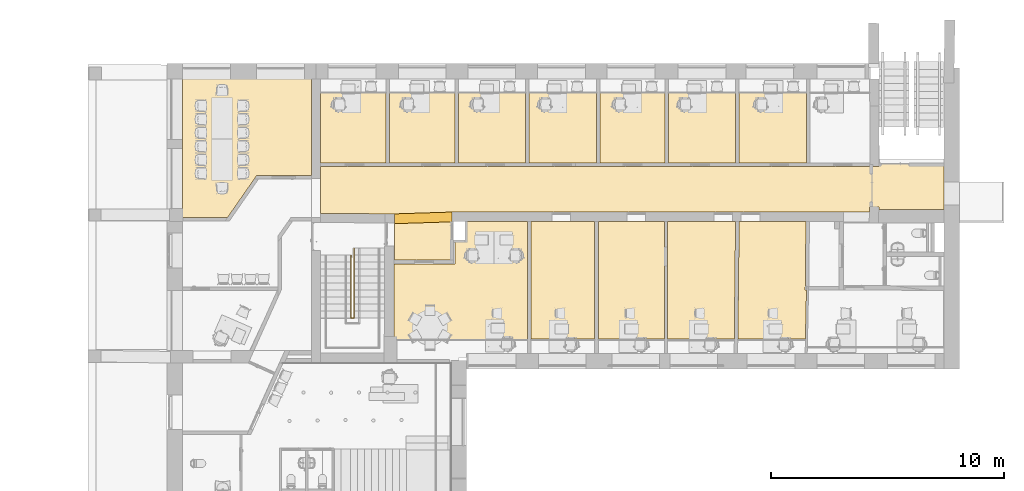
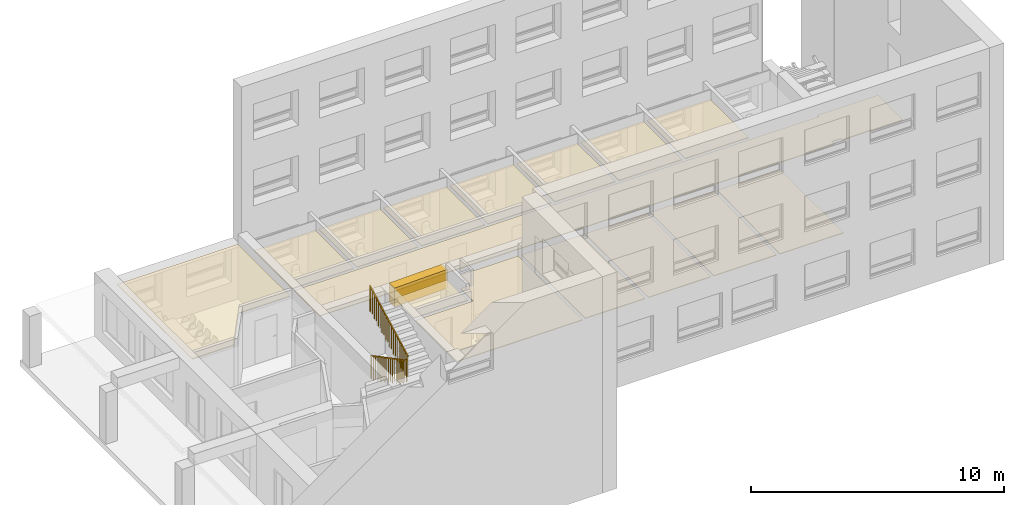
# One storey, part 20 of 25: 16 coverings, 1 railing, 1 element without a shape of its own.
"""IFC2X3 building model written with IfcOpenShell, lengths in millimetres."""

from ifc_helpers import new_model, entity, si_unit, converted_unit, derived_unit, direction, frame, frame_2d, origin, origin_2d_with_axis, place, context, subcontext, project, spatial, polyline, rectangle, outline, extrude, material, layer, layer_set, layer_usage, element, aggregate, save


model = new_model("IFC2X3")

# Units and contexts
model_context = context("Model", 3, precision=0.01, world=origin(), true_north=direction((6.12303176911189e-17, 1.0)))
context_of_model = context(None, 3, precision=0.01, world=origin(), true_north=direction((6.12303176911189e-17, 1.0)))
body_context = subcontext(model_context, "Body", "Model", "MODEL_VIEW")
ifc_project = project(units=[si_unit("LENGTHUNIT", "METRE", prefix="MILLI"), si_unit("AREAUNIT", "SQUARE_METRE"), si_unit("VOLUMEUNIT", "CUBIC_METRE"), converted_unit("PLANEANGLEUNIT", "DEGREE", entity("IfcRatioMeasure", 0.0174532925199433), si_unit("PLANEANGLEUNIT", "RADIAN"), dimensions=[0, 0, 0, 0, 0, 0, 0]), si_unit("MASSUNIT", "GRAM", prefix="KILO"), derived_unit("MASSDENSITYUNIT", [(si_unit("MASSUNIT", "GRAM", prefix="KILO"), 1), (si_unit("LENGTHUNIT", "METRE"), -3)]), si_unit("TIMEUNIT", "SECOND"), si_unit("FREQUENCYUNIT", "HERTZ"), si_unit("THERMODYNAMICTEMPERATUREUNIT", "DEGREE_CELSIUS"), derived_unit("THERMALTRANSMITTANCEUNIT", [(si_unit("MASSUNIT", "GRAM", prefix="KILO"), 1), (si_unit("THERMODYNAMICTEMPERATUREUNIT", "KELVIN"), -1), (si_unit("TIMEUNIT", "SECOND"), -3)]), derived_unit("VOLUMETRICFLOWRATEUNIT", [(si_unit("LENGTHUNIT", "METRE"), 3), (si_unit("TIMEUNIT", "SECOND"), -1)]), si_unit("ELECTRICCURRENTUNIT", "AMPERE"), si_unit("ELECTRICVOLTAGEUNIT", "VOLT"), si_unit("POWERUNIT", "WATT"), si_unit("FORCEUNIT", "NEWTON", prefix="KILO"), si_unit("ILLUMINANCEUNIT", "LUX"), si_unit("LUMINOUSFLUXUNIT", "LUMEN"), si_unit("LUMINOUSINTENSITYUNIT", "CANDELA"), derived_unit("USERDEFINED", [(si_unit("MASSUNIT", "GRAM", prefix="KILO"), -1), (si_unit("LENGTHUNIT", "METRE"), -2), (si_unit("TIMEUNIT", "SECOND"), 3), (si_unit("LUMINOUSFLUXUNIT", "LUMEN"), 1)]), derived_unit("LINEARVELOCITYUNIT", [(si_unit("LENGTHUNIT", "METRE"), 1), (si_unit("TIMEUNIT", "SECOND"), -1)]), si_unit("PRESSUREUNIT", "PASCAL"), derived_unit("USERDEFINED", [(si_unit("LENGTHUNIT", "METRE"), -2), (si_unit("MASSUNIT", "GRAM", prefix="KILO"), 1), (si_unit("TIMEUNIT", "SECOND"), -2)])], contexts=[model_context, context_of_model])

# Site, building, storey
site_placement = place(None, frame((121442.264707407, 135347.995453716, -1800.0)))
site = spatial("IfcSite", under=ifc_project, at=site_placement, Name="Surface", CompositionType="ELEMENT")
building_placement = place(site_placement, origin())
building = spatial("IfcBuilding", under=site, at=building_placement, CompositionType="ELEMENT")
storey_placement = place(building_placement, frame((0.0, 0.0, 1800.0)))
storey = spatial("IfcBuildingStorey", under=building, at=storey_placement, Name="1 korrus", CompositionType="ELEMENT", Elevation=1800.00000000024)

# Coverings
covering_1_placement = place(storey_placement, origin())
element("IfcCovering", 1, at=covering_1_placement, inside=storey, Name="Ceilings 5:Ceilings 5", ObjectType="Ceilings 5:Ceilings 5", PredefinedType="CEILING", context=body_context, shape_type="SweptSolid", body=[
    extrude(outline(polyline([(-166.358255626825, -1233.09676720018), (254.483267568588, -1233.09676720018), (166.331142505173, 1233.85553254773), (-254.456154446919, 1232.33800185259), (-166.358255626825, -1233.09676720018)])), frame((-104892.713031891, -121304.094460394, 2117.59878326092), z_axis=(0.0, 0.0, 1.0), x_axis=(0.00360638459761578, 0.999993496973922, 0.0)), (0.0, 0.0, 1.0), 907.401216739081),
])
ifc_material = material(Name="EST. Ripplagi. Moodullagi. 600 x 600 mm")
ifc_layer = layer(ifc_material, 35.0)
ifc_layer_set = layer_set([ifc_layer], Name="Compound Ceiling:600x600 Focus")
ifc_layer_usage_1 = layer_usage(ifc_layer_set, "AXIS3", "POSITIVE", 0.0)
covering_2_placement = place(storey_placement, origin())
element("IfcCovering", 2, at=covering_2_placement, inside=storey, material=ifc_layer_usage_1, Name="Compound Ceiling:600x600 Focus", ObjectType="Compound Ceiling:600x600 Focus", PredefinedType="CEILING", context=body_context, shape_type="SweptSolid", body=[
    extrude(outline(polyline([(-2829.28205076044, -3358.56630146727), (2693.47741892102, -3358.56630146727), (2693.4774189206, 2584.28315073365), (764.041402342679, 2584.28315073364), (-492.432138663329, 774.283150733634), (-2829.28205076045, 774.283150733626), (-2829.28205076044, -3358.56630146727)])), frame((-112522.299191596, -118700.485413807, 2600.0), z_axis=(0.0, 0.0, 1.0), x_axis=(-1.0, 0.0, 0.0)), (0.0, 0.0, 1.0), 35.0000000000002),
])
ifc_layer_usage_2 = layer_usage(ifc_layer_set, "AXIS3", "POSITIVE", 0.0)
covering_3_placement = place(storey_placement, origin())
element("IfcCovering", 3, at=covering_3_placement, inside=storey, material=ifc_layer_usage_2, Name="Compound Ceiling:600x600 Focus", ObjectType="Compound Ceiling:600x600 Focus", PredefinedType="CEILING", context=body_context, shape_type="SweptSolid", body=[
    extrude(rectangle(XDim=2814.01784110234, YDim=3037.31613195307, at=frame_2d((0.0, 8.64019966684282e-12), x_axis=(1.0, 0.0))), frame((-107886.008220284, -117426.110498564, 2500.0)), (0.0, 0.0, 1.0), 35.0000000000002),
])
ifc_layer_usage_3 = layer_usage(ifc_layer_set, "AXIS3", "POSITIVE", 0.0)
covering_4_placement = place(storey_placement, origin())
element("IfcCovering", 4, at=covering_4_placement, inside=storey, material=ifc_layer_usage_3, Name="Compound Ceiling:600x600 Focus", ObjectType="Compound Ceiling:600x600 Focus", PredefinedType="CEILING", context=body_context, shape_type="SweptSolid", body=[
    extrude(rectangle(XDim=3037.31613195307, YDim=2799.99999999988, at=origin_2d_with_axis()), frame((-104928.999299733, -117426.110498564, 2500.0), z_axis=(0.0, 0.0, 1.0), x_axis=(0.0, -1.0, 0.0)), (0.0, 0.0, 1.0), 35.0000000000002),
])
ifc_layer_usage_4 = layer_usage(ifc_layer_set, "AXIS3", "POSITIVE", 0.0)
covering_5_placement = place(storey_placement, origin())
element("IfcCovering", 5, at=covering_5_placement, inside=storey, material=ifc_layer_usage_4, Name="Compound Ceiling:600x600 Focus", ObjectType="Compound Ceiling:600x600 Focus", PredefinedType="CEILING", context=body_context, shape_type="SweptSolid", body=[
    extrude(rectangle(XDim=3037.31613195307, YDim=2890.0, at=frame_2d((8.64019966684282e-12, 0.0), x_axis=(1.0, 0.0))), frame((-101933.999299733, -117426.110498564, 2500.0), z_axis=(0.0, 0.0, 1.0), x_axis=(0.0, -1.0, 0.0)), (0.0, 0.0, 1.0), 35.0000000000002),
])
ifc_layer_usage_5 = layer_usage(ifc_layer_set, "AXIS3", "POSITIVE", 0.0)
covering_6_placement = place(storey_placement, origin())
element("IfcCovering", 6, at=covering_6_placement, inside=storey, material=ifc_layer_usage_5, Name="Compound Ceiling:600x600 Focus", ObjectType="Compound Ceiling:600x600 Focus", PredefinedType="CEILING", context=body_context, shape_type="SweptSolid", body=[
    extrude(rectangle(XDim=3037.31613195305, YDim=2900.0, at=frame_2d((8.64019966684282e-12, 0.0), x_axis=(1.0, 0.0))), frame((-98888.9992997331, -117426.110498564, 2500.0), z_axis=(0.0, 0.0, 1.0), x_axis=(0.0, -1.0, 0.0)), (0.0, 0.0, 1.0), 35.0000000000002),
])
ifc_layer_usage_6 = layer_usage(ifc_layer_set, "AXIS3", "POSITIVE", 0.0)
covering_7_placement = place(storey_placement, origin())
element("IfcCovering", 7, at=covering_7_placement, inside=storey, material=ifc_layer_usage_6, Name="Compound Ceiling:600x600 Focus", ObjectType="Compound Ceiling:600x600 Focus", PredefinedType="CEILING", context=body_context, shape_type="SweptSolid", body=[
    extrude(rectangle(XDim=3037.31613195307, YDim=2780.98215889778, at=frame_2d((-8.64019966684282e-12, -8.75388650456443e-12), x_axis=(1.0, 0.0))), frame((-95898.5082202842, -117426.110498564, 2500.0), z_axis=(0.0, 0.0, 1.0), x_axis=(0.0, -1.0, 0.0)), (0.0, 0.0, 1.0), 35.0000000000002),
])
ifc_layer_usage_7 = layer_usage(ifc_layer_set, "AXIS3", "POSITIVE", 0.0)
covering_8_placement = place(storey_placement, origin())
element("IfcCovering", 8, at=covering_8_placement, inside=storey, material=ifc_layer_usage_7, Name="Compound Ceiling:600x600 Focus", ObjectType="Compound Ceiling:600x600 Focus", PredefinedType="CEILING", context=body_context, shape_type="SweptSolid", body=[
    extrude(rectangle(XDim=3037.31613195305, YDim=2880.0, at=frame_2d((8.64019966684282e-12, 0.0), x_axis=(1.0, 0.0))), frame((-92918.0171408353, -117426.110498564, 2500.0), z_axis=(0.0, 0.0, 1.0), x_axis=(0.0, -1.0, 0.0)), (0.0, 0.0, 1.0), 35.0000000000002),
])
ifc_layer_usage_8 = layer_usage(ifc_layer_set, "AXIS3", "POSITIVE", 0.0)
covering_9_placement = place(storey_placement, origin())
element("IfcCovering", 9, at=covering_9_placement, inside=storey, material=ifc_layer_usage_8, Name="Compound Ceiling:600x600 Focus", ObjectType="Compound Ceiling:600x600 Focus", PredefinedType="CEILING", context=body_context, shape_type="SweptSolid", body=[
    extrude(rectangle(XDim=3037.31613195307, YDim=2899.01784110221, at=frame_2d((1.72803993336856e-11, -8.64019966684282e-12), x_axis=(1.0, 0.0))), frame((-89878.5082202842, -117426.110498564, 2500.0), z_axis=(0.0, 0.0, 1.0), x_axis=(0.0, -1.0, 0.0)), (0.0, 0.0, 1.0), 35.0000000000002),
])
ifc_layer_usage_9 = layer_usage(ifc_layer_set, "AXIS3", "POSITIVE", 0.0)
covering_10_placement = place(storey_placement, origin())
element("IfcCovering", 10, at=covering_10_placement, inside=storey, material=ifc_layer_usage_9, Name="Compound Ceiling:600x600 Focus", ObjectType="Compound Ceiling:600x600 Focus", PredefinedType="CEILING", context=body_context, shape_type="SweptSolid", body=[
    extrude(outline(polyline([(-1472.95404763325, -2525.21057328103), (1445.89128742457, -2525.21057328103), (1445.89128742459, 2525.21057328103), (-1418.82852721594, 2525.21057328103), (-1472.95404763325, -2525.21057328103)])), frame((-92946.7127775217, -123989.270442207, 2500.0), z_axis=(0.0, 0.0, 1.0), x_axis=(-1.0, 0.0, 0.0)), (0.0, 0.0, 1.0), 35.0000000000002),
])
ifc_layer_usage_10 = layer_usage(ifc_layer_set, "AXIS3", "POSITIVE", 0.0)
covering_11_placement = place(storey_placement, origin())
element("IfcCovering", 11, at=covering_11_placement, inside=storey, material=ifc_layer_usage_10, Name="Compound Ceiling:600x600 Focus", ObjectType="Compound Ceiling:600x600 Focus", PredefinedType="CEILING", context=body_context, shape_type="SweptSolid", body=[
    extrude(rectangle(XDim=2836.0569343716, YDim=5050.42114656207, at=origin_2d_with_axis()), frame((-95950.6325321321, -123989.270442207, 2500.0), z_axis=(0.0, 0.0, 1.0), x_axis=(-1.0, 0.0, 0.0)), (0.0, 0.0, 1.0), 35.0000000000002),
])
ifc_layer_usage_11 = layer_usage(ifc_layer_set, "AXIS3", "POSITIVE", 0.0)
covering_12_placement = place(storey_placement, origin())
element("IfcCovering", 12, at=covering_12_placement, inside=storey, material=ifc_layer_usage_11, Name="Compound Ceiling:600x600 Focus", ObjectType="Compound Ceiling:600x600 Focus", PredefinedType="CEILING", context=body_context, shape_type="SweptSolid", body=[
    extrude(rectangle(XDim=2736.56040324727, YDim=5050.42114656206, at=frame_2d((8.64019966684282e-12, 0.0), x_axis=(1.0, 0.0))), frame((-98896.9412009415, -123989.270442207, 2500.0), z_axis=(0.0, 0.0, 1.0), x_axis=(-1.0, 0.0, 0.0)), (0.0, 0.0, 1.0), 35.0000000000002),
])
ifc_layer_usage_12 = layer_usage(ifc_layer_set, "AXIS3", "POSITIVE", 0.0)
covering_13_placement = place(storey_placement, origin())
element("IfcCovering", 13, at=covering_13_placement, inside=storey, material=ifc_layer_usage_12, Name="Compound Ceiling:600x600 Focus", ObjectType="Compound Ceiling:600x600 Focus", PredefinedType="CEILING", context=body_context, shape_type="SweptSolid", body=[
    extrude(outline(polyline([(-972.95512312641, -2660.07508099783), (1897.62568732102, -2660.07508099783), (1956.03091684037, 2390.34606556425), (-947.847866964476, 2390.34606556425), (-993.779998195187, 269.729015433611), (-939.07361587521, 269.729015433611), (-972.95512312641, -2660.07508099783)])), frame((-89421.3180626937, -124124.134949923, 2500.0), z_axis=(0.0, 0.0, 1.0), x_axis=(-1.0, 0.0, 0.0)), (0.0, 0.0, 1.0), 35.0000000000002),
])
ifc_layer_usage_13 = layer_usage(ifc_layer_set, "AXIS3", "POSITIVE", 0.0)
covering_14_placement = place(storey_placement, origin())
element("IfcCovering", 14, at=covering_14_placement, inside=storey, material=ifc_layer_usage_13, Name="Compound Ceiling:600x600 Focus", ObjectType="Compound Ceiling:600x600 Focus", PredefinedType="CEILING", context=body_context, shape_type="SweptSolid", body=[
    extrude(outline(polyline([(-113.376945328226, -2861.05881104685), (3167.44230853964, -2861.05881104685), (3167.44230853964, 2874.61918864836), (-1925.97883802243, 2874.61918864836), (-1925.97883802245, 211.820433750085), (-1128.08652518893, 211.820433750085), (-1128.08652518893, -225.38081135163), (-113.376945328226, -225.38081135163), (-113.376945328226, -2861.05881104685)])), frame((-103289.840591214, -123390.038706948, 2500.0), z_axis=(0.0, 0.0, 1.0), x_axis=(0.0, -1.0, 0.0)), (0.0, 0.0, 1.0), 35.0000000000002),
])
ifc_layer_usage_14 = layer_usage(ifc_layer_set, "AXIS3", "POSITIVE", 0.0)
covering_15_placement = place(storey_placement, origin())
element("IfcCovering", 15, at=covering_15_placement, inside=storey, material=ifc_layer_usage_14, Name="Compound Ceiling:600x600 Focus", ObjectType="Compound Ceiling:600x600 Focus", PredefinedType="CEILING", context=body_context, shape_type="SweptSolid", body=[
    extrude(outline(polyline([(-1259.06316605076, -795.669641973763), (1207.94511124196, -795.669641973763), (1257.79166776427, 756.087048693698), (-1206.67361295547, 835.252235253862), (-1259.06316605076, -795.669641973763)])), frame((-104893.092460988, -122310.581713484, 2500.0), z_axis=(0.0, 0.0, 1.0), x_axis=(-0.99948446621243, -0.0321061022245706, 0.0)), (0.0, 0.0, 1.0), 35.0000000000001),
])
ifc_layer_usage_15 = layer_usage(ifc_layer_set, "AXIS3", "POSITIVE", 0.0)
covering_16_placement = place(storey_placement, origin())
element("IfcCovering", 16, at=covering_16_placement, inside=storey, material=ifc_layer_usage_15, Name="Compound Ceiling:600x600 Focus", ObjectType="Compound Ceiling:600x600 Focus", PredefinedType="CEILING", context=body_context, shape_type="SweptSolid", body=[
    extrude(outline(polyline([(-6866.34124484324, -1241.76793354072), (17116.4009916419, -1241.76793354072), (17116.4009916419, 779.163063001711), (13949.3445373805, 796.778143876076), (11482.090369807, 717.523370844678), (-6459.08784559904, 717.523370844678), (-6459.08784559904, 497.285069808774), (-6856.0535856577, 497.285069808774), (-6856.0535856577, 597.563434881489), (-9650.63576913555, 597.563434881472), (-9650.63576913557, -1358.57454543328), (-6866.34124484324, -1358.57454543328), (-6866.34124484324, -1241.76793354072)])), frame((-92176.6161491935, -120336.536498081, 2500.0), z_axis=(0.0, 0.0, 1.0), x_axis=(-1.0, 0.0, 0.0)), (0.0, 0.0, 1.0), 35.0000000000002),
])

# Stair, railing
stair_placement = place(storey_placement, origin())
stair = element("IfcStair", 17, at=stair_placement, inside=storey, Name="Assembled Stair:Stair", ObjectType="Assembled Stair:190mm max riser 250mm kesktrepp", ShapeType="NOTDEFINED")
railing_placement = place(stair_placement, origin())
railing = element("IfcRailing", 18, at=railing_placement, Name="Railing:1100mm", ObjectType="Railing:1100mm", PredefinedType="NOTDEFINED", context=body_context, shape_type="SweptSolid", body=[
    extrude(outline(polyline([(-574.403982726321, -12.5000000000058), (581.001204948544, -12.5000000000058), (581.001204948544, 12.5000000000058), (-587.598427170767, 12.4999999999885), (-574.403982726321, -12.5000000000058)])), frame((-107869.462495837, -122679.631676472, 3747.66787161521), z_axis=(1.0, 0.0, 0.0), x_axis=(0.0, 0.0, -1.0)), (0.0, 0.0, 1.0), 25.0000000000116),
    extrude(outline(polyline([(-534.820649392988, -12.5000000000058), (541.417871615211, -12.5000000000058), (541.417871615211, 12.5000000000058), (-548.015093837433, 12.4999999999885), (-534.820649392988, -12.5000000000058)])), frame((-107869.462495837, -122829.631676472, 3708.08453828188), z_axis=(1.0, 0.0, 0.0), x_axis=(0.0, 0.0, -1.0)), (0.0, 0.0, 1.0), 25.0000000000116),
    extrude(outline(polyline([(-574.403982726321, -12.5000000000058), (581.001204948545, -12.5000000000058), (581.001204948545, 12.5000000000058), (-587.598427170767, 12.4999999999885), (-574.403982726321, -12.5000000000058)])), frame((-107869.462495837, -122979.631676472, 3589.33453828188), z_axis=(1.0, 0.0, 0.0), x_axis=(0.0, 0.0, -1.0)), (0.0, 0.0, 1.0), 25.0000000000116),
    extrude(outline(polyline([(-534.820649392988, -12.5000000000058), (541.417871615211, -12.5000000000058), (541.417871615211, 12.5000000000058), (-548.015093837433, 12.4999999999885), (-534.820649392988, -12.5000000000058)])), frame((-107869.462495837, -123129.631676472, 3549.75120494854), z_axis=(1.0, 0.0, 0.0), x_axis=(0.0, 0.0, -1.0)), (0.0, 0.0, 1.0), 25.0000000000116),
    extrude(outline(polyline([(-574.403982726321, -12.5000000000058), (581.001204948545, -12.5000000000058), (581.001204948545, 12.5000000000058), (-587.598427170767, 12.4999999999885), (-574.403982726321, -12.5000000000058)])), frame((-107869.462495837, -123279.631676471, 3431.00120494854), z_axis=(1.0, 0.0, 0.0), x_axis=(0.0, 0.0, -1.0)), (0.0, 0.0, 1.0), 25.0000000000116),
    extrude(outline(polyline([(-534.820649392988, -12.5000000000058), (541.417871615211, -12.5000000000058), (541.417871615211, 12.5000000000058), (-548.015093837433, 12.4999999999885), (-534.820649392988, -12.5000000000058)])), frame((-107869.462495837, -123429.631676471, 3391.41787161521), z_axis=(1.0, 0.0, 0.0), x_axis=(0.0, 0.0, -1.0)), (0.0, 0.0, 1.0), 25.0000000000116),
    extrude(outline(polyline([(-574.403982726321, -12.5000000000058), (581.001204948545, -12.5000000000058), (581.001204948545, 12.5000000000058), (-587.598427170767, 12.4999999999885), (-574.403982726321, -12.5000000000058)])), frame((-107869.462495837, -123579.631676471, 3272.66787161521), z_axis=(1.0, 0.0, 0.0), x_axis=(0.0, 0.0, -1.0)), (0.0, 0.0, 1.0), 25.0000000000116),
    extrude(outline(polyline([(-534.820649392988, -12.5000000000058), (541.417871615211, -12.5000000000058), (541.417871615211, 12.5000000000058), (-548.015093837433, 12.4999999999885), (-534.820649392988, -12.5000000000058)])), frame((-107869.462495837, -123729.631676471, 3233.08453828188), z_axis=(1.0, 0.0, 0.0), x_axis=(0.0, 0.0, -1.0)), (0.0, 0.0, 1.0), 25.0000000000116),
    extrude(outline(polyline([(-574.403982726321, -12.5000000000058), (581.001204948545, -12.5000000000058), (581.001204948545, 12.5000000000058), (-587.598427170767, 12.4999999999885), (-574.403982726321, -12.5000000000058)])), frame((-107869.462495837, -123879.631676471, 3114.33453828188), z_axis=(1.0, 0.0, 0.0), x_axis=(0.0, 0.0, -1.0)), (0.0, 0.0, 1.0), 25.0000000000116),
    extrude(outline(polyline([(-534.820649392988, -12.5000000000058), (541.417871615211, -12.5000000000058), (541.417871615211, 12.5000000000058), (-548.015093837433, 12.4999999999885), (-534.820649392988, -12.5000000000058)])), frame((-107869.462495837, -124029.631676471, 3074.75120494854), z_axis=(1.0, 0.0, 0.0), x_axis=(0.0, 0.0, -1.0)), (0.0, 0.0, 1.0), 25.0000000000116),
    extrude(outline(polyline([(-574.403982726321, -12.5000000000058), (581.001204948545, -12.5000000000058), (581.001204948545, 12.5000000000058), (-587.598427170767, 12.4999999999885), (-574.403982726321, -12.5000000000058)])), frame((-107869.462495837, -124179.631676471, 2956.00120494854), z_axis=(1.0, 0.0, 0.0), x_axis=(0.0, 0.0, -1.0)), (0.0, 0.0, 1.0), 25.0000000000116),
    extrude(outline(polyline([(-534.820649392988, -12.5000000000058), (541.417871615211, -12.5000000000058), (541.417871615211, 12.5000000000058), (-548.015093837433, 12.4999999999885), (-534.820649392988, -12.5000000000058)])), frame((-107869.462495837, -124329.631676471, 2916.41787161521), z_axis=(1.0, 0.0, 0.0), x_axis=(0.0, 0.0, -1.0)), (0.0, 0.0, 1.0), 25.0000000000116),
    extrude(outline(polyline([(-574.403982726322, -12.5000000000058), (581.001204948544, -12.5000000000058), (581.001204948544, 12.5000000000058), (-587.598427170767, 12.4999999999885), (-574.403982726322, -12.5000000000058)])), frame((-107869.462495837, -124479.631676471, 2797.66787161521), z_axis=(1.0, 0.0, 0.0), x_axis=(0.0, 0.0, -1.0)), (0.0, 0.0, 1.0), 25.0000000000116),
    extrude(outline(polyline([(-534.820649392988, -12.5000000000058), (541.417871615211, -12.5000000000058), (541.417871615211, 12.5000000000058), (-548.015093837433, 12.4999999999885), (-534.820649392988, -12.5000000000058)])), frame((-107869.462495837, -124629.631676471, 2758.08453828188), z_axis=(1.0, 0.0, 0.0), x_axis=(0.0, 0.0, -1.0)), (0.0, 0.0, 1.0), 25.0000000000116),
    extrude(outline(polyline([(-574.403982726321, -12.5000000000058), (581.001204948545, -12.5000000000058), (581.001204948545, 12.5000000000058), (-587.598427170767, 12.4999999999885), (-574.403982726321, -12.5000000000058)])), frame((-107869.462495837, -124779.631676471, 2639.33453828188), z_axis=(1.0, 0.0, 0.0), x_axis=(0.0, 0.0, -1.0)), (0.0, 0.0, 1.0), 25.0000000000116),
    extrude(outline(polyline([(-534.820649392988, -12.5000000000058), (541.417871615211, -12.5000000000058), (541.417871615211, 12.5000000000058), (-548.015093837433, 12.4999999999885), (-534.820649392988, -12.5000000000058)])), frame((-107869.462495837, -124929.631676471, 2599.75120494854), z_axis=(1.0, 0.0, 0.0), x_axis=(0.0, 0.0, -1.0)), (0.0, 0.0, 1.0), 25.0000000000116),
    extrude(outline(polyline([(-574.403982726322, -12.5000000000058), (581.001204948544, -12.5000000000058), (581.001204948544, 12.5000000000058), (-587.598427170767, 12.4999999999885), (-574.403982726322, -12.5000000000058)])), frame((-107869.462495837, -125079.631676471, 2481.00120494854), z_axis=(1.0, 0.0, 0.0), x_axis=(0.0, 0.0, -1.0)), (0.0, 0.0, 1.0), 25.0000000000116),
    extrude(outline(polyline([(-534.820649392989, -12.5000000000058), (541.417871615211, -12.5000000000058), (541.417871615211, 12.5000000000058), (-548.015093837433, 12.4999999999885), (-534.820649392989, -12.5000000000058)])), frame((-107869.462495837, -125229.631676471, 2441.41787161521), z_axis=(1.0, 0.0, 0.0), x_axis=(0.0, 0.0, -1.0)), (0.0, 0.0, 1.0), 25.0000000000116),
    extrude(outline(polyline([(-574.403982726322, -12.5000000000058), (581.001204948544, -12.5000000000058), (581.001204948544, 12.5000000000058), (-587.598427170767, 12.4999999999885), (-574.403982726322, -12.5000000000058)])), frame((-107869.462495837, -125379.631676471, 2322.66787161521), z_axis=(1.0, 0.0, 0.0), x_axis=(0.0, 0.0, -1.0)), (0.0, 0.0, 1.0), 25.0000000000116),
    extrude(outline(polyline([(-534.820649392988, -12.5000000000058), (541.417871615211, -12.5000000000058), (541.417871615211, 12.5000000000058), (-548.015093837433, 12.4999999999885), (-534.820649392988, -12.5000000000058)])), frame((-107869.462495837, -125529.631676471, 2283.08453828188), z_axis=(1.0, 0.0, 0.0), x_axis=(0.0, 0.0, -1.0)), (0.0, 0.0, 1.0), 25.0000000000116),
    extrude(rectangle(XDim=25.0000000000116, YDim=24.9999999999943, at=frame_2d((8.66329230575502e-12, -1.73256964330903e-11), x_axis=(1.0, 0.0))), frame((-107918.417140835, -125604.631676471, 1583.33333333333), z_axis=(0.0, 0.0, 1.0), x_axis=(0.0, -1.0, 0.0)), (0.0, 0.0, 1.0), 1050.0),
    extrude(outline(polyline([(-581.106760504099, -12.4999999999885), (574.509538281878, -12.4999999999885), (587.703982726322, 12.5000000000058), (-581.106760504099, 12.5000000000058), (-581.106760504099, -12.4999999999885)])), frame((-108005.917140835, -125529.231676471, 2006.1067605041), z_axis=(1.0, 0.0, 0.0), x_axis=(0.0, 0.0, 1.0)), (0.0, 0.0, 1.0), 25.0000000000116),
    extrude(outline(polyline([(-541.523427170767, -12.4999999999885), (534.926204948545, -12.4999999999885), (548.120649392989, 12.5000000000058), (-541.523427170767, 12.5000000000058), (-541.523427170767, -12.4999999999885)])), frame((-108005.917140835, -125379.231676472, 1966.52342717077), z_axis=(1.0, 0.0, 0.0), x_axis=(0.0, 0.0, 1.0)), (0.0, 0.0, 1.0), 25.0000000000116),
    extrude(outline(polyline([(-581.1067605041, -12.4999999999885), (574.509538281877, -12.4999999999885), (587.703982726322, 12.5000000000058), (-581.1067605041, 12.5000000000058), (-581.1067605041, -12.4999999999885)])), frame((-108005.917140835, -125229.231676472, 1847.77342717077), z_axis=(1.0, 0.0, 0.0), x_axis=(0.0, 0.0, 1.0)), (0.0, 0.0, 1.0), 25.0000000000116),
    extrude(outline(polyline([(-541.523427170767, -12.4999999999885), (534.926204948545, -12.4999999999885), (548.12064939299, 12.5000000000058), (-541.523427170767, 12.5000000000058), (-541.523427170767, -12.4999999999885)])), frame((-108005.917140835, -125079.231676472, 1808.19009383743), z_axis=(1.0, 0.0, 0.0), x_axis=(0.0, 0.0, 1.0)), (0.0, 0.0, 1.0), 25.0000000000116),
    extrude(outline(polyline([(-581.1067605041, -12.4999999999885), (574.509538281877, -12.4999999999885), (587.703982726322, 12.5000000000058), (-581.1067605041, 12.5000000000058), (-581.1067605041, -12.4999999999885)])), frame((-108005.917140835, -124929.231676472, 1689.44009383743), z_axis=(1.0, 0.0, 0.0), x_axis=(0.0, 0.0, 1.0)), (0.0, 0.0, 1.0), 25.0000000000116),
    extrude(outline(polyline([(-541.523427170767, -12.4999999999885), (534.926204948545, -12.4999999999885), (548.120649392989, 12.5000000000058), (-541.523427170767, 12.5000000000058), (-541.523427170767, -12.4999999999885)])), frame((-108005.917140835, -124779.231676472, 1649.8567605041), z_axis=(1.0, 0.0, 0.0), x_axis=(0.0, 0.0, 1.0)), (0.0, 0.0, 1.0), 25.0000000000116),
    extrude(outline(polyline([(-581.106760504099, -12.4999999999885), (574.509538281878, -12.4999999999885), (587.703982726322, 12.5000000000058), (-581.106760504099, 12.5000000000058), (-581.106760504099, -12.4999999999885)])), frame((-108005.917140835, -124629.231676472, 1531.1067605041), z_axis=(1.0, 0.0, 0.0), x_axis=(0.0, 0.0, 1.0)), (0.0, 0.0, 1.0), 25.0000000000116),
    extrude(outline(polyline([(-541.523427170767, -12.4999999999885), (534.926204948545, -12.4999999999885), (548.120649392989, 12.5000000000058), (-541.523427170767, 12.5000000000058), (-541.523427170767, -12.4999999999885)])), frame((-108005.917140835, -124479.231676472, 1491.52342717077), z_axis=(1.0, 0.0, 0.0), x_axis=(0.0, 0.0, 1.0)), (0.0, 0.0, 1.0), 25.0000000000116),
    extrude(outline(polyline([(-581.1067605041, -12.4999999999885), (574.509538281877, -12.4999999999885), (587.703982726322, 12.5000000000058), (-581.1067605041, 12.5000000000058), (-581.1067605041, -12.4999999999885)])), frame((-108005.917140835, -124329.231676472, 1372.77342717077), z_axis=(1.0, 0.0, 0.0), x_axis=(0.0, 0.0, 1.0)), (0.0, 0.0, 1.0), 25.0000000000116),
    extrude(outline(polyline([(-541.523427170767, -12.4999999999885), (534.926204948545, -12.4999999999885), (548.120649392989, 12.5000000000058), (-541.523427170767, 12.5000000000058), (-541.523427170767, -12.4999999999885)])), frame((-108005.917140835, -124179.231676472, 1333.19009383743), z_axis=(1.0, 0.0, 0.0), x_axis=(0.0, 0.0, 1.0)), (0.0, 0.0, 1.0), 25.0000000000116),
    extrude(outline(polyline([(-581.1067605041, -12.4999999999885), (574.509538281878, -12.4999999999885), (587.703982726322, 12.5000000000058), (-581.1067605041, 12.5000000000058), (-581.1067605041, -12.4999999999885)])), frame((-108005.917140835, -124029.231676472, 1214.44009383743), z_axis=(1.0, 0.0, 0.0), x_axis=(0.0, 0.0, 1.0)), (0.0, 0.0, 1.0), 25.0000000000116),
    extrude(outline(polyline([(-541.523427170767, -12.4999999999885), (534.926204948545, -12.4999999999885), (548.120649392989, 12.5000000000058), (-541.523427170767, 12.5000000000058), (-541.523427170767, -12.4999999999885)])), frame((-108005.917140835, -123879.231676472, 1174.8567605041), z_axis=(1.0, 0.0, 0.0), x_axis=(0.0, 0.0, 1.0)), (0.0, 0.0, 1.0), 25.0000000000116),
    extrude(outline(polyline([(-581.1067605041, -12.4999999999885), (574.509538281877, -12.4999999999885), (587.703982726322, 12.5000000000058), (-581.1067605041, 12.5000000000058), (-581.1067605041, -12.4999999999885)])), frame((-108005.917140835, -123729.231676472, 1056.1067605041), z_axis=(1.0, 0.0, 0.0), x_axis=(0.0, 0.0, 1.0)), (0.0, 0.0, 1.0), 25.0000000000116),
    extrude(outline(polyline([(-541.523427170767, -12.4999999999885), (534.926204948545, -12.4999999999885), (548.12064939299, 12.5000000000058), (-541.523427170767, 12.5000000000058), (-541.523427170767, -12.4999999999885)])), frame((-108005.917140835, -123579.231676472, 1016.52342717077), z_axis=(1.0, 0.0, 0.0), x_axis=(0.0, 0.0, 1.0)), (0.0, 0.0, 1.0), 25.0000000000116),
    extrude(outline(polyline([(-581.1067605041, -12.4999999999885), (574.509538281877, -12.4999999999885), (587.703982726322, 12.5000000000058), (-581.1067605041, 12.5000000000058), (-581.1067605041, -12.4999999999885)])), frame((-108005.917140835, -123429.231676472, 897.773427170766), z_axis=(1.0, 0.0, 0.0), x_axis=(0.0, 0.0, 1.0)), (0.0, 0.0, 1.0), 25.0000000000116),
    extrude(outline(polyline([(-541.523427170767, -12.4999999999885), (534.926204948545, -12.4999999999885), (548.120649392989, 12.5000000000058), (-541.523427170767, 12.5000000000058), (-541.523427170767, -12.4999999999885)])), frame((-108005.917140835, -123279.231676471, 858.190093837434), z_axis=(1.0, 0.0, 0.0), x_axis=(0.0, 0.0, 1.0)), (0.0, 0.0, 1.0), 25.0000000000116),
    extrude(outline(polyline([(-581.1067605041, -12.4999999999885), (574.509538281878, -12.4999999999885), (587.703982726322, 12.5000000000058), (-581.1067605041, 12.5000000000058), (-581.1067605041, -12.4999999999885)])), frame((-108005.917140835, -123129.231676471, 739.440093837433), z_axis=(1.0, 0.0, 0.0), x_axis=(0.0, 0.0, 1.0)), (0.0, 0.0, 1.0), 25.0000000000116),
    extrude(outline(polyline([(-541.523427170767, -12.4999999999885), (534.926204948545, -12.4999999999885), (548.12064939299, 12.5000000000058), (-541.523427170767, 12.5000000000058), (-541.523427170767, -12.4999999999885)])), frame((-108005.917140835, -122979.231676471, 699.8567605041), z_axis=(1.0, 0.0, 0.0), x_axis=(0.0, 0.0, 1.0)), (0.0, 0.0, 1.0), 25.0000000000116),
    extrude(outline(polyline([(-594.195649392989, -12.4999999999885), (600.792871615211, -12.4999999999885), (600.792871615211, 12.5000000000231), (-607.390093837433, 12.5000000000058), (-594.195649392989, -12.4999999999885)])), frame((-107869.462495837, -125604.631676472, 2184.12620494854), z_axis=(1.0, 0.0, 0.0), x_axis=(0.0, 0.0, -1.0)), (0.0, 0.0, 1.0), 25.0000000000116),
    extrude(rectangle(XDim=25.0000000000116, YDim=24.9999999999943, at=frame_2d((-8.66329230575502e-12, 0.0), x_axis=(1.0, 0.0))), frame((-107993.417140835, -125604.631676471, 1583.33333333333), z_axis=(0.0, 0.0, 1.0), x_axis=(-1.0, 0.0, 0.0)), (0.0, 0.0, 1.0), 1050.0),
    extrude(outline(polyline([(-521.7317605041, -12.5000000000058), (515.134538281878, -12.5000000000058), (528.328982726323, 12.4999999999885), (-521.7317605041, 12.4999999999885), (-521.7317605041, -12.5000000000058)])), frame((-108005.917140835, -125604.231676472, 2105.06509383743), z_axis=(1.0, 0.0, 0.0), x_axis=(0.0, 0.0, 1.0)), (0.0, 0.0, 1.0), 25.0000000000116),
    extrude(outline(polyline([(-591.002593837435, -12.5000000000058), (597.599816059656, -12.5000000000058), (597.599816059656, 12.5000000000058), (-604.197038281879, 12.4999999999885), (-591.002593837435, -12.5000000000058)])), frame((-107869.462495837, -122616.731676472, 3764.26648272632), z_axis=(1.0, 0.0, 0.0), x_axis=(0.0, 0.0, -1.0)), (0.0, 0.0, 1.0), 25.0000000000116),
    extrude(outline(polyline([(-525.047487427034, -12.5000000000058), (518.489947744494, -12.5000000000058), (531.605027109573, 12.4999999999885), (-525.047487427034, 12.4999999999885), (-525.047487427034, -12.5000000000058)])), frame((-108005.917140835, -122916.731676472, 683.380820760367), z_axis=(1.0, 0.0, 0.0), x_axis=(0.0, 0.0, 1.0)), (0.0, 0.0, 1.0), 25.0000000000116),
    extrude(outline(polyline([(-1527.65075399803, -25.0), (1554.03964288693, -25.0), (1527.65075399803, 25.0), (-1554.03964288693, 25.0), (-1527.65075399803, -25.0)])), frame((-108018.417140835, -124266.931676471, 1949.2678716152), z_axis=(1.0, 0.0, 0.0), x_axis=(0.0, -0.88438475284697, 0.466758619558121)), (0.0, 0.0, 1.0), 49.9999999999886),
    extrude(rectangle(XDim=86.4546449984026, YDim=50.000000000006, at=frame_2d((0.0, 8.66329230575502e-12), x_axis=(1.0, 0.0))), frame((-107925.189818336, -125604.631676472, 2633.33333333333)), (0.0, 0.0, 1.0), 50.0),
    extrude(outline(polyline([(-1723.64907986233, -25.0), (1697.26019097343, -25.0), (1723.64907986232, 25.0), (-1697.26019097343, 25.0), (-1723.64907986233, -25.0)])), frame((-107881.962495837, -124116.931676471, 3598.36231605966), z_axis=(1.0, 0.0, 0.0), x_axis=(0.0, 0.884384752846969, 0.466758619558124)), (0.0, 0.0, 1.0), 49.9999999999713),
])
aggregate(stair, [railing])

save(model, "model.ifc")
